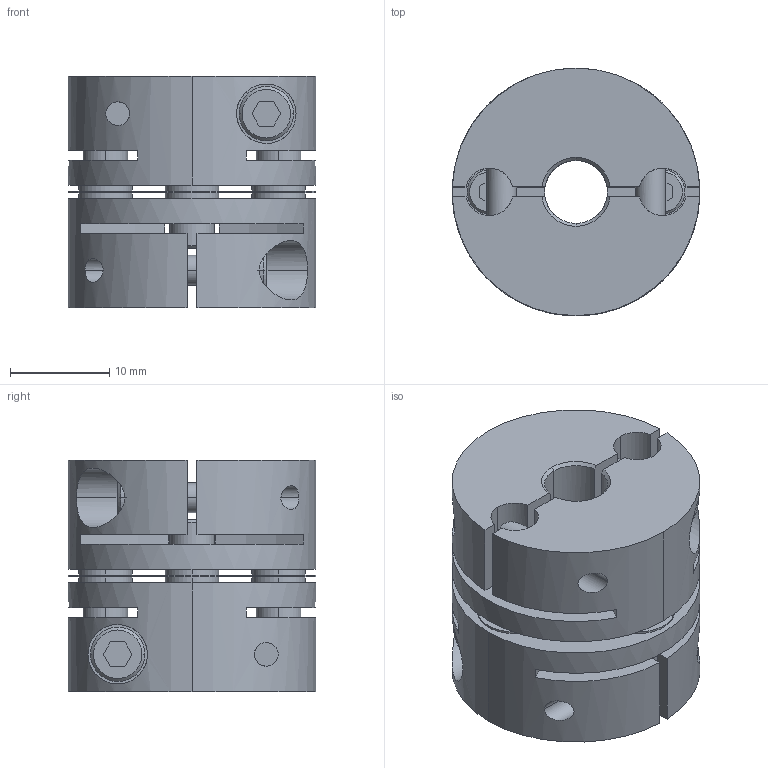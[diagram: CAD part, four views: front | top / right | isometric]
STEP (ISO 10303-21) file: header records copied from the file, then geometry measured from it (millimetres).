
FILE_DESCRIPTION((''),'2;1');
FILE_NAME('LAS-25C-6.35×7.stp','2011-08-10T10:22:08',(''),(''),'AutoCAD STEP 2000i','AutoCAD 2000i',', , ');
FILE_SCHEMA(('CONFIG_CONTROL_DESIGN'));
Length unit declared in the file: millimetre
Products named in the file (5): LAS-25C-6×6; 忣兜1; LA-2502-D06-1; LA-2502-D06; LAS25-ITA
Assembly tree (4 placements, depth 2):
  LAS-25C-6×6
    忣兜1
    LA-2502-D06-1
    LA-2502-D06
    LAS25-ITA
Bounding box: 25 x 25 x 23.4 mm (x, y, z)
Volume: 8731.6 mm3; surface area: 6915.4 mm2
Topology: 1 solids, 1 shells, 244 faces, 648 edges, 424 vertices
Faces by surface type: plane 112, cylinder 104, cone 28
Entity records: 8499 total; most frequent: CARTESIAN_POINT 2121, DIRECTION 1326, ORIENTED_EDGE 1296, EDGE_CURVE 648, AXIS2_PLACEMENT_3D 485, VERTEX_POINT 424, VECTOR 356, LINE 356
